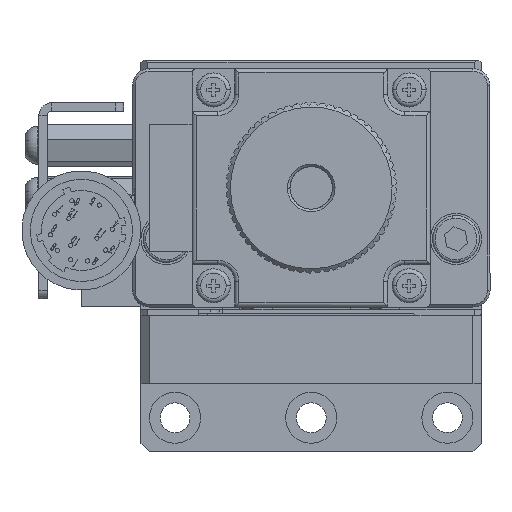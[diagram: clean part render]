
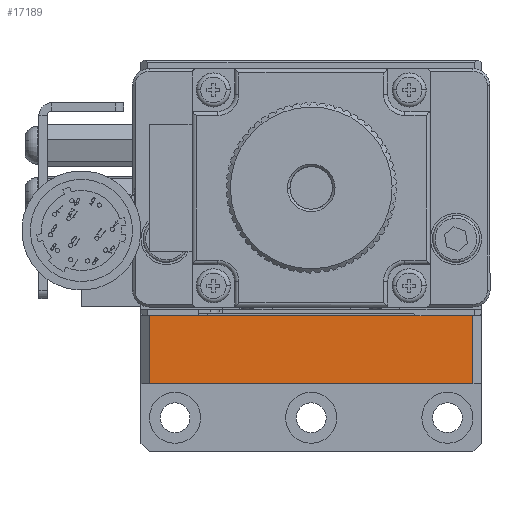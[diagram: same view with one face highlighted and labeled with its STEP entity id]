
A CAD part, front view. The second image highlights one B-rep face of the part: STEP entity #17189.
In plain terms, the highlighted planar face has unit normal (0, -1, 0).
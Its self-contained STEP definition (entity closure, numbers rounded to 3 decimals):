
#247 = ORIENTED_EDGE ( 'NONE', *, *, #42416, .T. ) ;
#3629 = VERTEX_POINT ( 'NONE', #128811 ) ;
#9062 = CARTESIAN_POINT ( 'NONE',  ( -72.612, -20., -8. ) ) ;
#10627 = FACE_OUTER_BOUND ( 'NONE', #73856, .T. ) ;
#17189 = ADVANCED_FACE ( 'NONE', ( #10627 ), #79755, .T. ) ;
#21857 = CARTESIAN_POINT ( 'NONE',  ( -19., -20., -8. ) ) ;
#23081 = ORIENTED_EDGE ( 'NONE', *, *, #115144, .T. ) ;
#34251 = VECTOR ( 'NONE', #129336, 1000. ) ;
#35683 = CARTESIAN_POINT ( 'NONE',  ( 19., -20., -8. ) ) ;
#38529 = VERTEX_POINT ( 'NONE', #35683 ) ;
#42416 = EDGE_CURVE ( 'NONE', #3629, #47530, #56463, .T. ) ;
#44868 = VECTOR ( 'NONE', #100447, 1000. ) ;
#47530 = VERTEX_POINT ( 'NONE', #94877 ) ;
#49102 = DIRECTION ( 'NONE',  ( 1., 0., 0. ) ) ;
#52312 = LINE ( 'NONE', #84582, #34251 ) ;
#56463 = LINE ( 'NONE', #21857, #44868 ) ;
#58996 = VECTOR ( 'NONE', #49102, 1000. ) ;
#62290 = CARTESIAN_POINT ( 'NONE',  ( -72.612, -20., 0. ) ) ;
#63665 = VECTOR ( 'NONE', #100233, 1000. ) ;
#66823 = ORIENTED_EDGE ( 'NONE', *, *, #82703, .F. ) ;
#67337 = CARTESIAN_POINT ( 'NONE',  ( -72.612, -20., -8. ) ) ;
#73856 = EDGE_LOOP ( 'NONE', ( #140717, #23081, #66823, #247 ) ) ;
#79755 = PLANE ( 'NONE',  #80467 ) ;
#80467 = AXIS2_PLACEMENT_3D ( 'NONE', #67337, #134851, #112128 ) ;
#82703 = EDGE_CURVE ( 'NONE', #3629, #114254, #105558, .T. ) ;
#84582 = CARTESIAN_POINT ( 'NONE',  ( 19., -20., 0. ) ) ;
#89225 = LINE ( 'NONE', #9062, #63665 ) ;
#94877 = CARTESIAN_POINT ( 'NONE',  ( -19., -20., -8. ) ) ;
#96141 = EDGE_CURVE ( 'NONE', #47530, #38529, #89225, .T. ) ;
#100233 = DIRECTION ( 'NONE',  ( 1., 0., 0. ) ) ;
#100447 = DIRECTION ( 'NONE',  ( 0., 0., -1. ) ) ;
#105558 = LINE ( 'NONE', #62290, #58996 ) ;
#112128 = DIRECTION ( 'NONE',  ( 0., 0., 1. ) ) ;
#114254 = VERTEX_POINT ( 'NONE', #145156 ) ;
#115144 = EDGE_CURVE ( 'NONE', #38529, #114254, #52312, .T. ) ;
#128811 = CARTESIAN_POINT ( 'NONE',  ( -19., -20., 0. ) ) ;
#129336 = DIRECTION ( 'NONE',  ( 0., 0., 1. ) ) ;
#134851 = DIRECTION ( 'NONE',  ( 0., -1., 0. ) ) ;
#140717 = ORIENTED_EDGE ( 'NONE', *, *, #96141, .T. ) ;
#145156 = CARTESIAN_POINT ( 'NONE',  ( 19., -20., 0. ) ) ;
